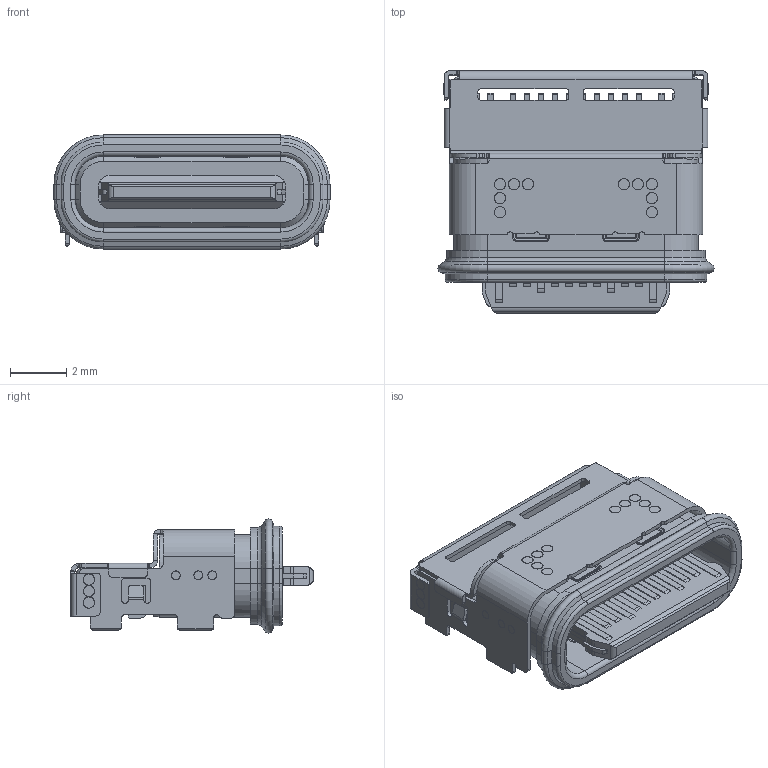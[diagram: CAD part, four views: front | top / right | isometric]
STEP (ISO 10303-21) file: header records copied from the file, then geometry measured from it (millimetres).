
FILE_DESCRIPTION((''),'2;1');
FILE_NAME('TYPE_C24P_-3D_1_','2024-01-24T',('admin'),(''),'PRO/ENGINEER BY PARAMETRIC TECHNOLOGY CORPORATION, 2015240','PRO/ENGINEER BY PARAMETRIC TECHNOLOGY CORPORATION, 2015240','');
FILE_SCHEMA(('CONFIG_CONTROL_DESIGN','SHAPE_APPEARANCE_LAYERS_GROUPS'));
Length unit declared in the file: millimetre
Products named in the file (1): TYPE_C24P_-3D_1_
Bounding box: 9.85 x 8.65 x 4.07 mm (x, y, z)
Volume: 108.9 mm3; surface area: 634.3 mm2
Topology: 1 solids, 4 shells, 1353 faces, 3707 edges, 2376 vertices
Faces by surface type: plane 835, cylinder 394, torus 48, cone 32, bspline 26, sphere 18
Entity records: 54102 total; most frequent: CARTESIAN_POINT 10125, ORIENTED_EDGE 7410, DIRECTION 6915, EDGE_CURVE 3705, VECTOR 2531, LINE 2531, VERTEX_POINT 2376, AXIS2_PLACEMENT_3D 2192
